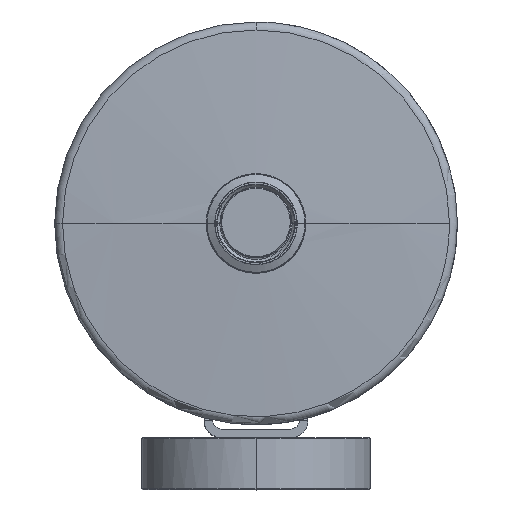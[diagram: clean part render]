
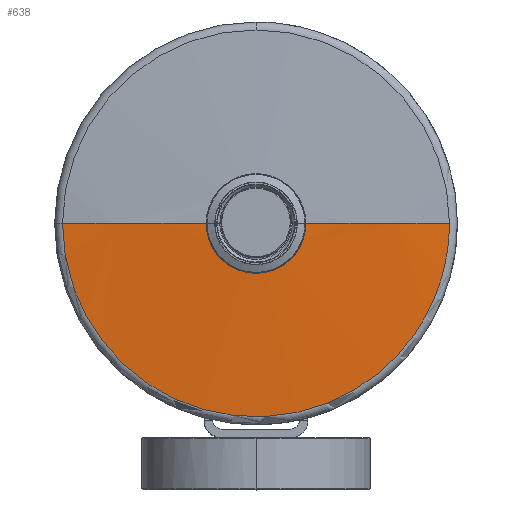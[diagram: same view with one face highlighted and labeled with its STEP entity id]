
A CAD part, top view. The second image highlights one B-rep face of the part: STEP entity #638.
In plain terms, the highlighted spherical face has radius 541.562 mm.
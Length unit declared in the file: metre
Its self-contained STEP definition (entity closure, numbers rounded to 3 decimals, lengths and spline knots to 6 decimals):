
#584=VERTEX_POINT('',#585);
#585=CARTESIAN_POINT('',(0.044665,0.0614,0.063655));
#591=CARTESIAN_POINT('',(-0.044665,0.0614,0.063655));
#593=EDGE_CURVE('',#594,#584,#596,.T.);
#594=VERTEX_POINT('',#595);
#595=CARTESIAN_POINT('',(-0.044665,0.0614,0.063655));
#596=(B_SPLINE_CURVE(3,(#591,#597,#598,#599),.UNSPECIFIED.,.F.,.U.)B_SPLINE_CURVE_WITH_KNOTS(
  (4,4),(0.0,1.0),.UNSPECIFIED.)BOUNDED_CURVE()CURVE()GEOMETRIC_REPRESENTATION_ITEM(
  )RATIONAL_B_SPLINE_CURVE((1.0,0.333,0.333,1.0)
  )REPRESENTATION_ITEM(''));
#597=CARTESIAN_POINT('',(-0.044665,-0.02793,
  0.063655));
#598=CARTESIAN_POINT('',(0.044665,-0.02793,
  0.063655));
#599=CARTESIAN_POINT('',(0.044665,0.0614,0.063655));
#638=ADVANCED_FACE('',(#644),#639,.T.);
#639=SPHERICAL_SURFACE('',#640,0.541563);
#640=AXIS2_PLACEMENT_3D('',#641,#642,#643);
#641=CARTESIAN_POINT('',(0.0,0.0614,-0.476063));
#642=DIRECTION('',(0.0,0.0,1.0));
#643=DIRECTION('',(-1.0,0.,0.0));
#644=FACE_OUTER_BOUND('',#645,.T.);
#645=EDGE_LOOP('',(#646,#647,#657,#665));
#646=ORIENTED_EDGE('',*,*,#593,.T.);
#647=ORIENTED_EDGE('',*,*,#648,.T.);
#648=EDGE_CURVE('',#584,#649,#651,.T.);
#649=VERTEX_POINT('',#650);
#650=CARTESIAN_POINT('',(0.0088,0.0614,0.065428));
#651=CIRCLE('',#652,0.541563);
#652=AXIS2_PLACEMENT_3D('',#653,#654,#655);
#653=CARTESIAN_POINT('',(0.0,0.0614,-0.476063));
#654=DIRECTION('',(0.,-1.0,0.0));
#655=DIRECTION('',(1.0,0.,0.0));
#656=CARTESIAN_POINT('',(-0.0088,0.0614,0.065428));
#657=ORIENTED_EDGE('',*,*,#658,.F.);
#658=EDGE_CURVE('',#659,#649,#661,.T.);
#659=VERTEX_POINT('',#660);
#660=CARTESIAN_POINT('',(-0.0088,0.0614,0.065428));
#661=(B_SPLINE_CURVE(3,(#656,#662,#663,#664),.UNSPECIFIED.,.F.,.U.)B_SPLINE_CURVE_WITH_KNOTS(
  (4,4),(0.0,1.0),.UNSPECIFIED.)BOUNDED_CURVE()CURVE()GEOMETRIC_REPRESENTATION_ITEM(
  )RATIONAL_B_SPLINE_CURVE((1.0,0.333,0.333,1.0)
  )REPRESENTATION_ITEM(''));
#662=CARTESIAN_POINT('',(-0.0088,0.0438,0.065428));
#663=CARTESIAN_POINT('',(0.0088,0.0438,0.065428));
#664=CARTESIAN_POINT('',(0.0088,0.0614,0.065428));
#665=ORIENTED_EDGE('',*,*,#666,.F.);
#666=EDGE_CURVE('',#594,#659,#667,.T.);
#667=CIRCLE('',#668,0.541563);
#668=AXIS2_PLACEMENT_3D('',#669,#670,#671);
#669=CARTESIAN_POINT('',(0.0,0.0614,-0.476063));
#670=DIRECTION('',(0.,1.0,0.));
#671=DIRECTION('',(0.0,0.0,1.0));
